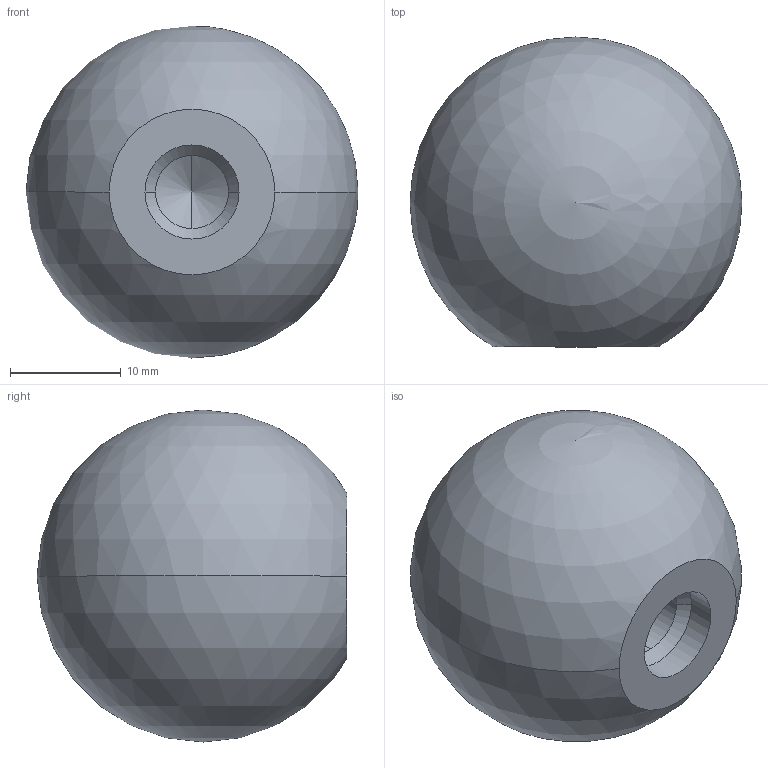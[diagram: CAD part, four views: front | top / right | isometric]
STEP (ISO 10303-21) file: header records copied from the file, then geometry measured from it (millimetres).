
FILE_DESCRIPTION (( 'STEP AP214' ), '1' );
FILE_NAME ('319-KU-30-M8-C.step', '2024-08-21T05:16:11', ( '' ), ( '' ), 'SwSTEP 2.0', 'SolidWorks 2022', '' );
FILE_SCHEMA (( 'AUTOMOTIVE_DESIGN' ));
Length unit declared in the file: millimetre
Products named in the file (1): 319-KU-30-M8-C
Bounding box: 30 x 28 x 30 mm (x, y, z)
Volume: 13354.7 mm3; surface area: 3136.1 mm2
Topology: 1 solids, 1 shells, 11 faces, 29 edges, 17 vertices
Faces by surface type: cylinder 4, cone 4, sphere 2, plane 1
Entity records: 350 total; most frequent: DIRECTION 60, CARTESIAN_POINT 48, ORIENTED_EDGE 44, AXIS2_PLACEMENT_3D 26, EDGE_CURVE 22, CIRCLE 14, VERTEX_POINT 14, EDGE_LOOP 12
